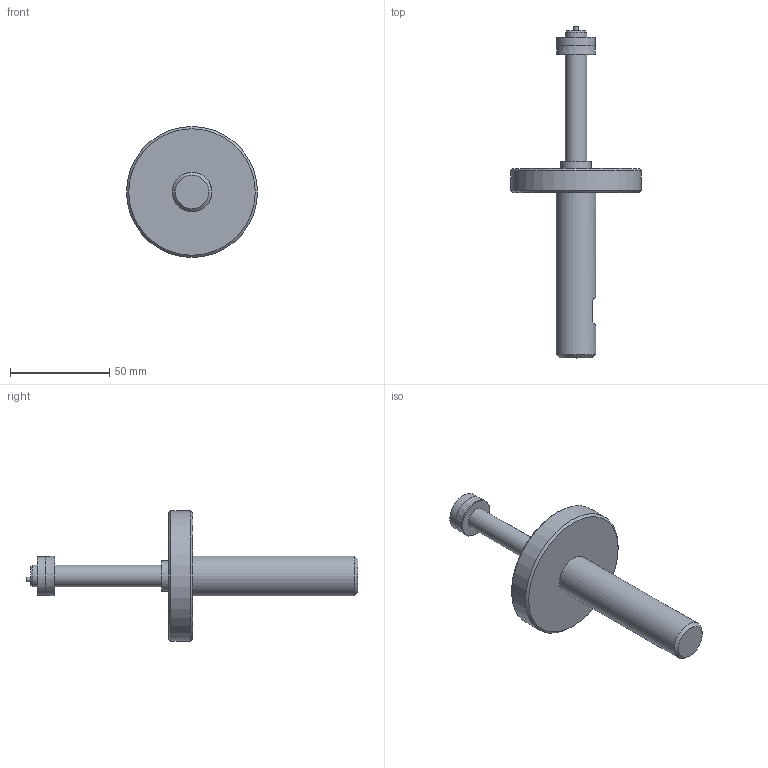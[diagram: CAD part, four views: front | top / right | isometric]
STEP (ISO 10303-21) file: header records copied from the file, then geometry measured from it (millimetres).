
FILE_DESCRIPTION (( 'STEP AP203' ), '1' );
FILE_NAME ('AF40-SIMPLE - AF40-11.00M-20.00M.step', '2025-01-21T16:31:24', ( '' ), ( '' ), 'SwSTEP 2.0', 'SolidWorks 2024', '' );
FILE_SCHEMA (( 'CONFIG_CONTROL_DESIGN' ));
Length unit declared in the file: inch
Products named in the file (1): AF40-SIMPLE - AF40-11.00M-20.00M
Bounding box: 66.04 x 167.39 x 66.04 mm (x, y, z)
Volume: 76073.2 mm3; surface area: 17369.7 mm2
Topology: 1 solids, 1 shells, 24 faces, 40 edges, 25 vertices
Faces by surface type: plane 11, cylinder 7, cone 5, torus 1
Full cylindrical faces by diameter (mm): 2.286 x1, 10.871 x2, 15.24 x1, 19.494 x1, 20 x1, 66.04 x1
Entity records: 569 total; most frequent: DIRECTION 94, CARTESIAN_POINT 81, ORIENTED_EDGE 52, AXIS2_PLACEMENT_3D 45, EDGE_LOOP 44, FACE_OUTER_BOUND 32, EDGE_CURVE 26, VERTEX_POINT 24
